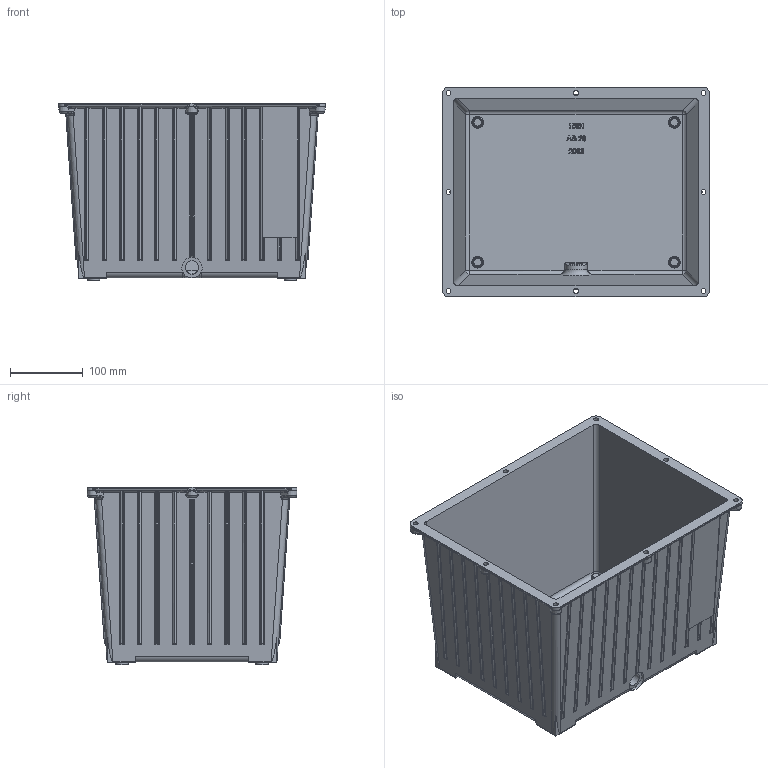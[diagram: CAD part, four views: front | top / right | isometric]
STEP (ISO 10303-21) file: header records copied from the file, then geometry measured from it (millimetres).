
FILE_DESCRIPTION( ( 'STEP AP203' ), '1' );
FILE_NAME( 'F:/HBE/Fertigungszeichnungen/AB 20.stp', '2007-03-30T09:48:22', ( ' ' ), ( ' ' ), 'XStep 1.0', ' ', ' ' );
FILE_SCHEMA( ( 'CONFIG_CONTROL_DESIGN) ( )' ) );
Length unit declared in the file: metre
Products named in the file (1): 1
Bounding box: 366 x 288 x 244 mm (x, y, z)
Volume: 1645094.2 mm3; surface area: 726943.5 mm2
Topology: 1 solids, 1 shells, 724 faces, 1934 edges, 1219 vertices
Faces by surface type: cylinder 322, plane 238, bspline 96, torus 30, extrusion 22, cone 12, sphere 4
Full cylindrical faces by diameter (mm): 6.647 x12, 17 x4, 18.631 x1, 28 x1
Entity records: 38625 total; most frequent: CARTESIAN_POINT 22155, ORIENTED_EDGE 3702, DIRECTION 2937, EDGE_CURVE 1851, VERTEX_POINT 1200, AXIS2_PLACEMENT_3D 1056, VECTOR 825, EDGE_LOOP 813
